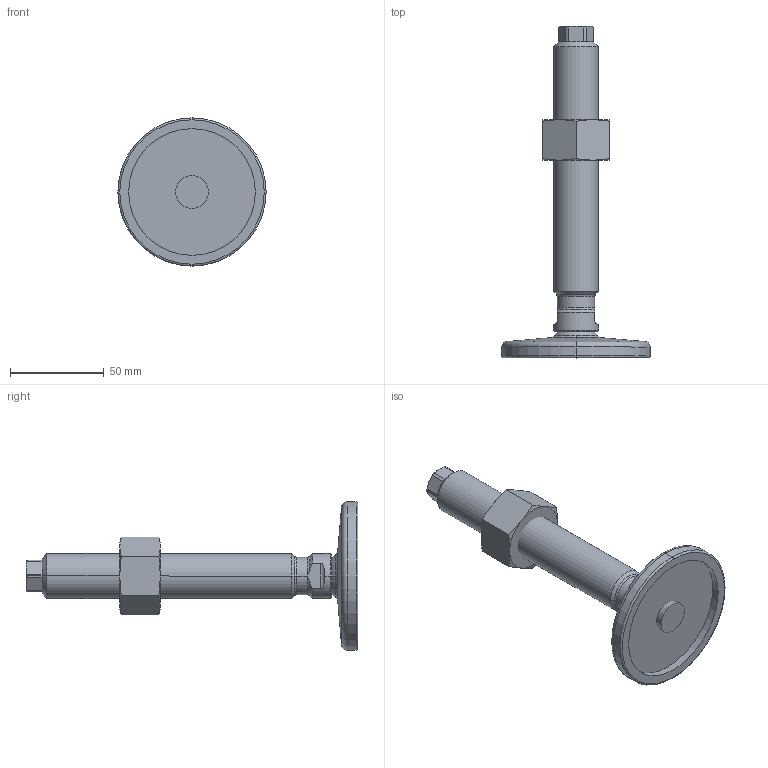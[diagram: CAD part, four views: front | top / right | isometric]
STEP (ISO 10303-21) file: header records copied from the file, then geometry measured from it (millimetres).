
FILE_DESCRIPTION (( 'STEP AP214' ), '1' );
FILE_NAME ('21-80-M24-150-D0-VK.step', '2020-10-02T17:36:10', ( '' ), ( '' ), 'SwSTEP 2.0', 'SolidWorks 2019', '' );
FILE_SCHEMA (( 'AUTOMOTIVE_DESIGN' ));
Length unit declared in the file: millimetre
Products named in the file (4): WB4032^WB21_V_M24; WB21_Fußteller 21^WB21_V_D0-080-R14-B9 (M24); 21-80-M24-150-D0-VK; WB21_Spindel_V^WB21_V_M24-150
Assembly tree (3 placements, depth 2):
  21-80-M24-150-D0-VK
    WB21_Fußteller 21^WB21_V_D0-080-R14-B9 (M24)
    WB21_Spindel_V^WB21_V_M24-150
    WB4032^WB21_V_M24
Bounding box: 79 x 176.9 x 79 mm (x, y, z)
Volume: 119272.1 mm3; surface area: 31680.6 mm2
Topology: 3 solids, 3 shells, 101 faces, 225 edges, 133 vertices
Faces by surface type: cone 33, plane 29, cylinder 25, torus 10, sphere 4
Entity records: 3176 total; most frequent: CARTESIAN_POINT 749, DIRECTION 492, ORIENTED_EDGE 450, EDGE_CURVE 225, AXIS2_PLACEMENT_3D 212, VERTEX_POINT 133, EDGE_LOOP 106, CIRCLE 105
